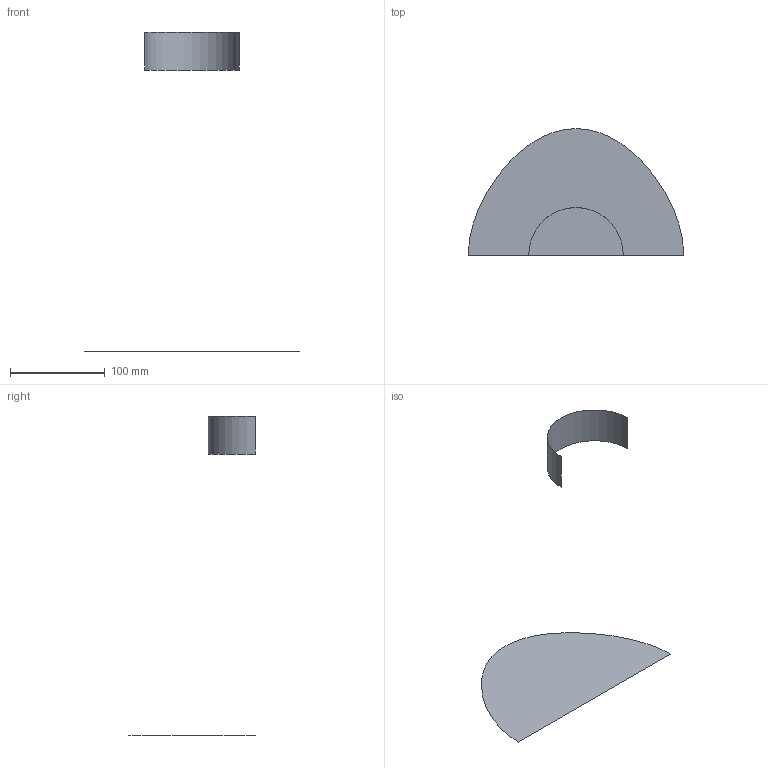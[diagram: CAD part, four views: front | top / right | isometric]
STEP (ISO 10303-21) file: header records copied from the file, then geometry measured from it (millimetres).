
FILE_DESCRIPTION(('CATIA V5 STEP Exchange'),'2;1');
FILE_NAME('C:\_Andres\UNIVERSIDAD\IQS\ASIGNATURAS\DAO\Controles\1617\c1\1original\Puig_Bataller_Ej00-base_v24.stp','2017-02-06T16:27:49+00:00',('none'),('none'),'CATIA Version 5-6 Release 2014 SP1 HF18','CATIA V5 STEP AP203','none');
FILE_SCHEMA(('CONFIG_CONTROL_DESIGN'));
Length unit declared in the file: millimetre
Products named in the file (1): Puig_Bataller_Ej00-base_v24
Bounding box: 228 x 134 x 338 mm (x, y, z)
Surface area: 29283.9 mm2 (no closed solid volume)
Topology: 0 solids, 2 shells, 2 faces, 16 edges, 26 vertices
Faces by surface type: cylinder 1, plane 1
Entity records: 230 total; most frequent: CARTESIAN_POINT 78, DIRECTION 16, COMPOSITE_CURVE_SEGMENT 9, TRIMMED_CURVE 9, AXIS2_PLACEMENT_3D 8, COMPOSITE_CURVE 7, ORIENTED_EDGE 7, EDGE_CURVE 7
